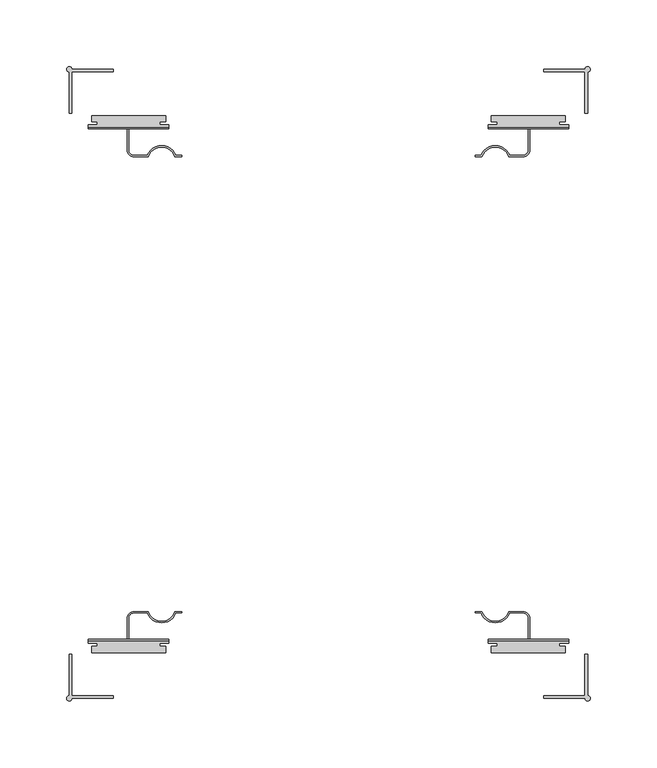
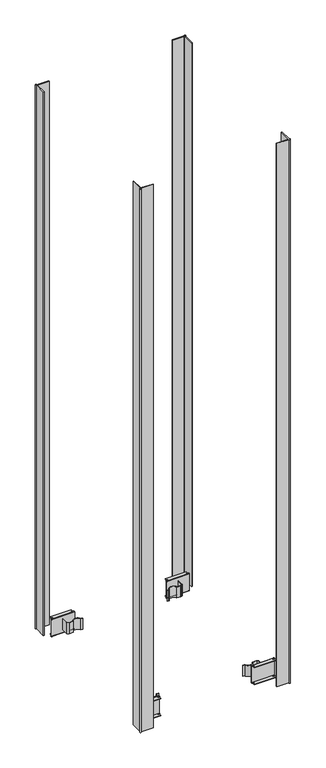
"""IFC4 building model written with IfcOpenShell, lengths in millimetres: column geometry, Облицовка колонн : КНАУФ-Суперлист один слой."""

from ifc_helpers import new_model, si_unit, point, frame, frame_2d, origin, origin_with_axes, place, context, project, spatial, polyline, circle_curve, trimmed, segment, composite_curve, outline, extrude, source, transform, mapped, element, save
from ifc_brep_helpers import plane_surface, cylinder_surface, advanced_brep


def column_70669c84(model_context):
    return source(origin(), model_context, "Body", "SolidModel", [
        extrude(outline(composite_curve([segment(polyline([(161.5, -234.0), (192.5, -234.0), (192.5, -203.0), (194.4874508, -203.0), (194.4874508, -234.0436745)]), True, "CONTINUOUS"), segment(trimmed(circle_curve(frame_2d((194.4874508, -236.0311253)), 1.9874508), [point((194.4874508, -234.0436745))], [point((192.5, -236.0311253))], False, "CARTESIAN"), True, "CONTINUOUS"), segment(polyline([(192.5, -236.0311253), (161.5, -236.0311253), (161.5, -234.0)]), True, "CONTINUOUS")], self_intersect=False)), origin_with_axes(), (0.0, 0.0, 1.0), 1500.0),
        extrude(outline(composite_curve([segment(polyline([(161.5, 234.0), (161.5, 236.0311253), (192.5, 236.0311253)]), True, "CONTINUOUS"), segment(trimmed(circle_curve(frame_2d((194.4874508, 236.0311253)), 1.9874508), [point((192.5, 236.0311253))], [point((194.4874508, 234.0436745))], False, "CARTESIAN"), True, "CONTINUOUS"), segment(polyline([(194.4874508, 234.0436745), (194.4874508, 203.0), (192.5, 203.0), (192.5, 234.0), (161.5, 234.0)]), True, "CONTINUOUS")], self_intersect=False)), origin_with_axes(), (0.0, 0.0, 1.0), 1500.0),
        extrude(outline(composite_curve([segment(polyline([(-161.5, -234.0), (-161.5, -236.0311253), (-192.5, -236.0311253)]), True, "CONTINUOUS"), segment(trimmed(circle_curve(frame_2d((-194.4874508, -236.0311253)), 1.9874508), [point((-192.5, -236.0311253))], [point((-194.4874508, -234.0436745))], False, "CARTESIAN"), True, "CONTINUOUS"), segment(polyline([(-194.4874508, -234.0436745), (-194.4874508, -203.0), (-192.5, -203.0), (-192.5, -234.0), (-161.5, -234.0)]), True, "CONTINUOUS")], self_intersect=False)), origin_with_axes(), (0.0, 0.0, 1.0), 1500.0),
        extrude(outline(composite_curve([segment(polyline([(-161.5, 234.0), (-192.5, 234.0), (-192.5, 203.0), (-194.4874508, 203.0), (-194.4874508, 234.0436745)]), True, "CONTINUOUS"), segment(trimmed(circle_curve(frame_2d((-194.4874508, 236.0311253)), 1.9874508), [point((-194.4874508, 234.0436745))], [point((-192.5, 236.0311253))], False, "CARTESIAN"), True, "CONTINUOUS"), segment(polyline([(-192.5, 236.0311253), (-161.5, 236.0311253), (-161.5, 234.0)]), True, "CONTINUOUS")], self_intersect=False)), origin_with_axes(), (0.0, 0.0, 1.0), 1500.0),
        advanced_brep(
        [(-180.2, 191.5, 46.0), (-180.2, 192.5, 47.0), (-180.2, 194.5, 47.0), (-180.2, 194.5, 46.0), (-180.2, 192.5, 46.0), (-180.2, 192.5, 0.0), (-180.2, 194.5, 0.0), (-180.2, 194.5, -1.0), (-180.2, 192.5, -1.0), (-180.2, 191.5, 0.0), (-119.8, 191.5, 46.0), (-119.8, 191.5, 0.0), (-119.8, 192.5, -1.0), (-119.8, 194.5, -1.0), (-119.8, 194.5, 0.0), (-119.8, 192.5, 0.0), (-119.8, 192.5, 46.0), (-119.8, 194.5, 46.0), (-119.8, 194.5, 47.0), (-119.8, 192.5, 47.0), (-126.6838154, 194.5, 47.0), (-126.6838154, 196.8, 47.0), (-122.2, 196.8, 47.0), (-122.2, 201.5, 47.0), (-177.8, 201.5, 47.0), (-177.8, 196.8, 47.0), (-173.3161846, 196.8, 47.0), (-173.3161846, 194.5, 47.0), (-177.8, 201.5, 46.0), (-122.2, 201.5, 46.0), (-173.3161846, 194.5, 46.0), (-173.3161846, 196.8, 46.0), (-177.8, 196.8, 46.0), (-122.2, 196.8, 46.0), (-126.6838154, 196.8, 46.0), (-126.6838154, 194.5, 46.0), (-126.6838154, 194.5, 0.0), (-126.6838154, 196.8, 0.0), (-122.2, 196.8, 0.0), (-122.2, 201.5, 0.0), (-177.8, 201.5, 0.0), (-177.8, 196.8, 0.0), (-173.3161846, 196.8, 0.0), (-173.3161846, 194.5, 0.0), (-177.8, 201.5, -1.0), (-122.2, 201.5, -1.0), (-173.3161846, 194.5, -1.0), (-173.3161846, 196.8, -1.0), (-177.8, 196.8, -1.0), (-122.2, 196.8, -1.0), (-126.6838154, 196.8, -1.0), (-126.6838154, 194.5, -1.0)],
        [
            (0, 1, circle_curve(frame((-180.2, 192.5, 46.0), z_axis=(-1.0, 0.0, 0.0), x_axis=(0.0, -1.0, 0.0)), 1.0)),
            (1, 2),
            (2, 3),
            (3, 4),
            (4, 5),
            (5, 6),
            (6, 7),
            (7, 8),
            (8, 9, circle_curve(frame((-180.2, 192.5, 0.0), z_axis=(-1.0, 0.0, 0.0), x_axis=(0.0, -1.0, 0.0)), 1.0)),
            (9, 0),
            (10, 11),
            (11, 12, circle_curve(frame((-119.8, 192.5, 0.0), z_axis=(1.0, 0.0, 0.0), x_axis=(0.0, -1.0, 0.0)), 1.0)),
            (12, 13),
            (13, 14),
            (14, 15),
            (15, 16),
            (16, 17),
            (17, 18),
            (18, 19),
            (19, 10, circle_curve(frame((-119.8, 192.5, 46.0), z_axis=(1.0, 0.0, 0.0), x_axis=(0.0, -1.0, 0.0)), 1.0)),
            (0, 10),
            (19, 1),
            (18, 20),
            (20, 21),
            (21, 22),
            (22, 23),
            (23, 24),
            (24, 25),
            (25, 26),
            (26, 27),
            (27, 2),
            (28, 24),
            (23, 29),
            (29, 28),
            (16, 4),
            (3, 30),
            (30, 31),
            (31, 32),
            (32, 28),
            (29, 33),
            (33, 34),
            (34, 35),
            (35, 17),
            (15, 5),
            (14, 36),
            (36, 37),
            (37, 38),
            (38, 39),
            (39, 40),
            (40, 41),
            (41, 42),
            (42, 43),
            (43, 6),
            (44, 40),
            (39, 45),
            (45, 44),
            (12, 8),
            (7, 46),
            (46, 47),
            (47, 48),
            (48, 44),
            (45, 49),
            (49, 50),
            (50, 51),
            (51, 13),
            (11, 9),
            (30, 27),
            (26, 31),
            (46, 43),
            (42, 47),
            (25, 32),
            (41, 48),
            (34, 21),
            (20, 35),
            (50, 37),
            (36, 51),
            (33, 22),
            (49, 38),
        ],
        [
            plane_surface(frame((-180.2, 191.5, 46.0), z_axis=(-1.0, 0.0, 0.0), x_axis=(0.0, 0.0, 1.0))),
            plane_surface(frame((-119.8, 191.5, 46.0), z_axis=(1.0, 0.0, 0.0), x_axis=(0.0, 0.0, -1.0))),
            cylinder_surface(frame((-119.8, 192.5, 46.0), z_axis=(-1.0, 0.0, 0.0), x_axis=(0.0, -1.0, 0.0)), 1.0),
            plane_surface(frame((-180.2, 192.5, 47.0), z_axis=(0.0, 0.0, 1.0), x_axis=(1.0, 0.0, 0.0))),
            plane_surface(frame((-180.2, 201.5, 47.0), z_axis=(0.0, 1.0, 0.0), x_axis=(1.0, 0.0, 0.0))),
            plane_surface(frame((-180.2, 201.5, 46.0), z_axis=(0.0, 0.0, -1.0), x_axis=(1.0, 0.0, 0.0))),
            plane_surface(frame((-180.2, 192.5, 46.0), z_axis=(0.0, 1.0, 0.0), x_axis=(1.0, 0.0, 0.0))),
            plane_surface(frame((-180.2, 192.5, 0.0), z_axis=(0.0, 0.0, 1.0), x_axis=(1.0, 0.0, 0.0))),
            plane_surface(frame((-180.2, 201.5, 0.0), z_axis=(0.0, 1.0, 0.0), x_axis=(1.0, 0.0, 0.0))),
            plane_surface(frame((-180.2, 201.5, -1.0), z_axis=(0.0, 0.0, -1.0), x_axis=(1.0, 0.0, 0.0))),
            cylinder_surface(frame((-119.8, 192.5, 0.0), z_axis=(-1.0, 0.0, 0.0), x_axis=(0.0, -1.0, 0.0)), 1.0),
            plane_surface(frame((-180.2, 191.5, 0.0), z_axis=(0.0, -1.0, 0.0), x_axis=(1.0, 0.0, 0.0))),
            plane_surface(frame((-173.3161846, 194.5, 47.0), z_axis=(-1.0, 0.0, 0.0), x_axis=(0.0, 0.0, -1.0))),
            plane_surface(frame((-173.3161846, 196.8, 47.0), z_axis=(0.0, -1.0, 0.0), x_axis=(0.0, 0.0, -1.0))),
            plane_surface(frame((-177.8, 196.8, 47.0), z_axis=(-1.0, 0.0, 0.0), x_axis=(0.0, 0.0, -1.0))),
            plane_surface(frame((-180.2, 194.5, 47.0), z_axis=(0.0, 1.0, 0.0), x_axis=(0.0, 0.0, -1.0))),
            plane_surface(frame((-126.6838154, 196.8, 47.0), z_axis=(1.0, 0.0, 0.0), x_axis=(0.0, 0.0, -1.0))),
            plane_surface(frame((-122.2, 196.8, 47.0), z_axis=(0.0, -1.0, 0.0), x_axis=(0.0, 0.0, -1.0))),
            plane_surface(frame((-122.2, 201.5, 47.0), z_axis=(1.0, 0.0, 0.0), x_axis=(0.0, 0.0, -1.0))),
            plane_surface(frame((-126.6838154, 194.5, 47.0), z_axis=(0.0, 1.0, 0.0), x_axis=(0.0, 0.0, -1.0))),
        ],
        [
            (0, [[1, 2, 3, 4, 5, 6, 7, 8, 9, 10]]),
            (1, [[11, 12, 13, 14, 15, 16, 17, 18, 19, 20]]),
            (2, [[-1, 21, -20, 22]]),
            (3, [[-22, -19, 23, 24, 25, 26, 27, 28, 29, 30, 31, -2]]),
            (4, [[32, -27, 33, 34]]),
            (5, [[35, -4, 36, 37, 38, 39, -34, 40, 41, 42, 43, -17]]),
            (6, [[-5, -35, -16, 44]]),
            (7, [[-44, -15, 45, 46, 47, 48, 49, 50, 51, 52, 53, -6]]),
            (8, [[54, -49, 55, 56]]),
            (9, [[57, -8, 58, 59, 60, 61, -56, 62, 63, 64, 65, -13]]),
            (10, [[-9, -57, -12, 66]]),
            (11, [[-10, -66, -11, -21]]),
            (12, [[67, -30, 68, -37]]),
            (12, [[69, -52, 70, -59]]),
            (13, [[-68, -29, 71, -38]]),
            (13, [[-70, -51, 72, -60]]),
            (14, [[-71, -28, -32, -39]]),
            (14, [[-72, -50, -54, -61]]),
            (15, [[-67, -36, -3, -31]]),
            (15, [[-69, -58, -7, -53]]),
            (16, [[73, -24, 74, -42]]),
            (16, [[75, -46, 76, -64]]),
            (17, [[-73, -41, 77, -25]]),
            (17, [[-75, -63, 78, -47]]),
            (18, [[-77, -40, -33, -26]]),
            (18, [[-78, -62, -55, -48]]),
            (19, [[-74, -23, -18, -43]]),
            (19, [[-76, -45, -14, -65]]),
        ],
    ),
        extrude(outline(composite_curve([segment(trimmed(circle_curve(frame_2d((-125.2, 167.4974781)), 10.5025219), [point((-115.2, 170.7073015))], [point((-135.2, 170.7073015))], True, "CARTESIAN"), True, "CONTINUOUS"), segment(polyline([(-135.2, 170.7073015), (-146.0, 170.7073015)]), True, "CONTINUOUS"), segment(trimmed(circle_curve(frame_2d((-146.0, 175.7073015)), 5.0), [point((-146.0, 170.7073015))], [point((-151.0, 175.7073015))], False, "CARTESIAN"), True, "CONTINUOUS"), segment(polyline([(-151.0, 175.7073015), (-151.0, 191.5), (-150.0, 191.5), (-150.0, 175.7073015)]), True, "CONTINUOUS"), segment(trimmed(circle_curve(frame_2d((-146.0, 175.7073015)), 4.0), [point((-150.0, 175.7073015))], [point((-146.0, 171.7073015))], True, "CARTESIAN"), True, "CONTINUOUS"), segment(polyline([(-146.0, 171.7073015), (-135.9044569, 171.7073015)]), True, "CONTINUOUS"), segment(trimmed(circle_curve(frame_2d((-125.2, 167.4974781)), 11.5025219), [point((-135.9044569, 171.7073015))], [point((-114.4955431, 171.7073015))], False, "CARTESIAN"), True, "CONTINUOUS"), segment(polyline([(-114.4955431, 171.7073015), (-110.2, 171.7073015), (-110.2, 170.7073015), (-115.2, 170.7073015)]), True, "CONTINUOUS")], self_intersect=False)), frame((0.0, 0.0, 8.0), z_axis=(0.0, 0.0, 1.0), x_axis=(1.0, 0.0, 0.0)), (0.0, 0.0, 1.0), 30.0),
        advanced_brep(
        [(180.2, 191.5, 46.0), (180.2, 191.5, 0.0), (180.2, 192.5, -1.0), (180.2, 194.5, -1.0), (180.2, 194.5, 0.0), (180.2, 192.5, 0.0), (180.2, 192.5, 46.0), (180.2, 194.5, 46.0), (180.2, 194.5, 47.0), (180.2, 192.5, 47.0), (119.8, 191.5, 46.0), (119.8, 192.5, 47.0), (119.8, 194.5, 47.0), (119.8, 194.5, 46.0), (119.8, 192.5, 46.0), (119.8, 192.5, 0.0), (119.8, 194.5, 0.0), (119.8, 194.5, -1.0), (119.8, 192.5, -1.0), (119.8, 191.5, 0.0), (173.3161846, 194.5, 47.0), (173.3161846, 196.8, 47.0), (177.8, 196.8, 47.0), (177.8, 201.5, 47.0), (122.2, 201.5, 47.0), (122.2, 196.8, 47.0), (126.6838154, 196.8, 47.0), (126.6838154, 194.5, 47.0), (177.8, 201.5, 46.0), (122.2, 201.5, 46.0), (126.6838154, 194.5, 46.0), (126.6838154, 196.8, 46.0), (122.2, 196.8, 46.0), (177.8, 196.8, 46.0), (173.3161846, 196.8, 46.0), (173.3161846, 194.5, 46.0), (173.3161846, 194.5, 0.0), (173.3161846, 196.8, 0.0), (177.8, 196.8, 0.0), (177.8, 201.5, 0.0), (122.2, 201.5, 0.0), (122.2, 196.8, 0.0), (126.6838154, 196.8, 0.0), (126.6838154, 194.5, 0.0), (177.8, 201.5, -1.0), (122.2, 201.5, -1.0), (126.6838154, 194.5, -1.0), (126.6838154, 196.8, -1.0), (122.2, 196.8, -1.0), (177.8, 196.8, -1.0), (173.3161846, 196.8, -1.0), (173.3161846, 194.5, -1.0)],
        [
            (0, 1),
            (1, 2, circle_curve(frame((180.2, 192.5, 0.0), z_axis=(1.0, 0.0, 0.0), x_axis=(0.0, -1.0, 0.0)), 1.0)),
            (2, 3),
            (3, 4),
            (4, 5),
            (5, 6),
            (6, 7),
            (7, 8),
            (8, 9),
            (9, 0, circle_curve(frame((180.2, 192.5, 46.0), z_axis=(1.0, 0.0, 0.0), x_axis=(0.0, -1.0, 0.0)), 1.0)),
            (10, 11, circle_curve(frame((119.8, 192.5, 46.0), z_axis=(-1.0, 0.0, 0.0), x_axis=(0.0, -1.0, 0.0)), 1.0)),
            (11, 12),
            (12, 13),
            (13, 14),
            (14, 15),
            (15, 16),
            (16, 17),
            (17, 18),
            (18, 19, circle_curve(frame((119.8, 192.5, 0.0), z_axis=(-1.0, 0.0, 0.0), x_axis=(0.0, -1.0, 0.0)), 1.0)),
            (19, 10),
            (9, 11),
            (10, 0),
            (8, 20),
            (20, 21),
            (21, 22),
            (22, 23),
            (23, 24),
            (24, 25),
            (25, 26),
            (26, 27),
            (27, 12),
            (28, 29),
            (29, 24),
            (23, 28),
            (13, 30),
            (30, 31),
            (31, 32),
            (32, 29),
            (28, 33),
            (33, 34),
            (34, 35),
            (35, 7),
            (6, 14),
            (5, 15),
            (4, 36),
            (36, 37),
            (37, 38),
            (38, 39),
            (39, 40),
            (40, 41),
            (41, 42),
            (42, 43),
            (43, 16),
            (44, 45),
            (45, 40),
            (39, 44),
            (17, 46),
            (46, 47),
            (47, 48),
            (48, 45),
            (44, 49),
            (49, 50),
            (50, 51),
            (51, 3),
            (2, 18),
            (1, 19),
            (34, 21),
            (20, 35),
            (50, 37),
            (36, 51),
            (33, 22),
            (49, 38),
            (30, 27),
            (26, 31),
            (46, 43),
            (42, 47),
            (25, 32),
            (41, 48),
        ],
        [
            plane_surface(frame((180.2, 191.5, 46.0), z_axis=(1.0, 0.0, 0.0), x_axis=(0.0, 0.0, 1.0))),
            plane_surface(frame((119.8, 191.5, 46.0), z_axis=(-1.0, 0.0, 0.0), x_axis=(0.0, 0.0, -1.0))),
            cylinder_surface(frame((119.8, 192.5, 46.0), z_axis=(1.0, 0.0, 0.0), x_axis=(0.0, -1.0, 0.0)), 1.0),
            plane_surface(frame((180.2, 192.5, 47.0), z_axis=(0.0, 0.0, 1.0), x_axis=(-1.0, 0.0, 0.0))),
            plane_surface(frame((180.2, 201.5, 47.0), z_axis=(0.0, 1.0, 0.0), x_axis=(-1.0, 0.0, 0.0))),
            plane_surface(frame((180.2, 201.5, 46.0), z_axis=(0.0, 0.0, -1.0), x_axis=(-1.0, 0.0, 0.0))),
            plane_surface(frame((180.2, 192.5, 46.0), z_axis=(0.0, 1.0, 0.0), x_axis=(-1.0, 0.0, 0.0))),
            plane_surface(frame((180.2, 192.5, 0.0), z_axis=(0.0, 0.0, 1.0), x_axis=(-1.0, 0.0, 0.0))),
            plane_surface(frame((180.2, 201.5, 0.0), z_axis=(0.0, 1.0, 0.0), x_axis=(-1.0, 0.0, 0.0))),
            plane_surface(frame((180.2, 201.5, -1.0), z_axis=(0.0, 0.0, -1.0), x_axis=(-1.0, 0.0, 0.0))),
            cylinder_surface(frame((119.8, 192.5, 0.0), z_axis=(1.0, 0.0, 0.0), x_axis=(0.0, -1.0, 0.0)), 1.0),
            plane_surface(frame((180.2, 191.5, 0.0), z_axis=(0.0, -1.0, 0.0), x_axis=(-1.0, 0.0, 0.0))),
            plane_surface(frame((173.3161846, 194.5, 47.0), z_axis=(1.0, 0.0, 0.0), x_axis=(0.0, 0.0, -1.0))),
            plane_surface(frame((173.3161846, 196.8, 47.0), z_axis=(0.0, -1.0, 0.0), x_axis=(0.0, 0.0, -1.0))),
            plane_surface(frame((177.8, 196.8, 47.0), z_axis=(1.0, 0.0, 0.0), x_axis=(0.0, 0.0, -1.0))),
            plane_surface(frame((180.2, 194.5, 47.0), z_axis=(0.0, 1.0, 0.0), x_axis=(0.0, 0.0, -1.0))),
            plane_surface(frame((126.6838154, 196.8, 47.0), z_axis=(-1.0, 0.0, 0.0), x_axis=(0.0, 0.0, -1.0))),
            plane_surface(frame((122.2, 196.8, 47.0), z_axis=(0.0, -1.0, 0.0), x_axis=(0.0, 0.0, -1.0))),
            plane_surface(frame((122.2, 201.5, 47.0), z_axis=(-1.0, 0.0, 0.0), x_axis=(0.0, 0.0, -1.0))),
            plane_surface(frame((126.6838154, 194.5, 47.0), z_axis=(0.0, 1.0, 0.0), x_axis=(0.0, 0.0, -1.0))),
        ],
        [
            (0, [[1, 2, 3, 4, 5, 6, 7, 8, 9, 10]]),
            (1, [[11, 12, 13, 14, 15, 16, 17, 18, 19, 20]]),
            (2, [[21, -11, 22, -10]]),
            (3, [[-9, 23, 24, 25, 26, 27, 28, 29, 30, 31, -12, -21]]),
            (4, [[32, 33, -27, 34]]),
            (5, [[-14, 35, 36, 37, 38, -32, 39, 40, 41, 42, -7, 43]]),
            (6, [[44, -15, -43, -6]]),
            (7, [[-5, 45, 46, 47, 48, 49, 50, 51, 52, 53, -16, -44]]),
            (8, [[54, 55, -49, 56]]),
            (9, [[-18, 57, 58, 59, 60, -54, 61, 62, 63, 64, -3, 65]]),
            (10, [[66, -19, -65, -2]]),
            (11, [[-22, -20, -66, -1]]),
            (12, [[-41, 67, -24, 68]]),
            (12, [[-63, 69, -46, 70]]),
            (13, [[-40, 71, -25, -67]]),
            (13, [[-62, 72, -47, -69]]),
            (14, [[-39, -34, -26, -71]]),
            (14, [[-61, -56, -48, -72]]),
            (15, [[-23, -8, -42, -68]]),
            (15, [[-45, -4, -64, -70]]),
            (16, [[-36, 73, -30, 74]]),
            (16, [[-58, 75, -52, 76]]),
            (17, [[-29, 77, -37, -74]]),
            (17, [[-51, 78, -59, -76]]),
            (18, [[-28, -33, -38, -77]]),
            (18, [[-50, -55, -60, -78]]),
            (19, [[-35, -13, -31, -73]]),
            (19, [[-57, -17, -53, -75]]),
        ],
    ),
        extrude(outline(composite_curve([segment(polyline([(115.2, 170.7073015), (110.2, 170.7073015), (110.2, 171.7073015), (114.4955431, 171.7073015)]), True, "CONTINUOUS"), segment(trimmed(circle_curve(frame_2d((125.2, 167.4974781)), 11.5025219), [point((114.4955431, 171.7073015))], [point((135.9044569, 171.7073015))], False, "CARTESIAN"), True, "CONTINUOUS"), segment(polyline([(135.9044569, 171.7073015), (146.0, 171.7073015)]), True, "CONTINUOUS"), segment(trimmed(circle_curve(frame_2d((146.0, 175.7073015)), 4.0), [point((146.0, 171.7073015))], [point((150.0, 175.7073015))], True, "CARTESIAN"), True, "CONTINUOUS"), segment(polyline([(150.0, 175.7073015), (150.0, 191.5), (151.0, 191.5), (151.0, 175.7073015)]), True, "CONTINUOUS"), segment(trimmed(circle_curve(frame_2d((146.0, 175.7073015)), 5.0), [point((151.0, 175.7073015))], [point((146.0, 170.7073015))], False, "CARTESIAN"), True, "CONTINUOUS"), segment(polyline([(146.0, 170.7073015), (135.2, 170.7073015)]), True, "CONTINUOUS"), segment(trimmed(circle_curve(frame_2d((125.2, 167.4974781)), 10.5025219), [point((135.2, 170.7073015))], [point((115.2, 170.7073015))], True, "CARTESIAN"), True, "CONTINUOUS")], self_intersect=False)), frame((0.0, 0.0, 8.0), z_axis=(0.0, 0.0, 1.0), x_axis=(1.0, 0.0, 0.0)), (0.0, 0.0, 1.0), 30.0),
        advanced_brep(
        [(-180.2, -191.5, 46.0), (-180.2, -191.5, 0.0), (-180.2, -192.5, -1.0), (-180.2, -194.5, -1.0), (-180.2, -194.5, 0.0), (-180.2, -192.5, 0.0), (-180.2, -192.5, 46.0), (-180.2, -194.5, 46.0), (-180.2, -194.5, 47.0), (-180.2, -192.5, 47.0), (-119.8, -191.5, 46.0), (-119.8, -192.5, 47.0), (-119.8, -194.5, 47.0), (-119.8, -194.5, 46.0), (-119.8, -192.5, 46.0), (-119.8, -192.5, 0.0), (-119.8, -194.5, 0.0), (-119.8, -194.5, -1.0), (-119.8, -192.5, -1.0), (-119.8, -191.5, 0.0), (-173.3161846, -194.5, 47.0), (-173.3161846, -196.8, 47.0), (-177.8, -196.8, 47.0), (-177.8, -201.5, 47.0), (-122.2, -201.5, 47.0), (-122.2, -196.8, 47.0), (-126.6838154, -196.8, 47.0), (-126.6838154, -194.5, 47.0), (-177.8, -201.5, 46.0), (-122.2, -201.5, 46.0), (-126.6838154, -194.5, 46.0), (-126.6838154, -196.8, 46.0), (-122.2, -196.8, 46.0), (-177.8, -196.8, 46.0), (-173.3161846, -196.8, 46.0), (-173.3161846, -194.5, 46.0), (-173.3161846, -194.5, 0.0), (-173.3161846, -196.8, 0.0), (-177.8, -196.8, 0.0), (-177.8, -201.5, 0.0), (-122.2, -201.5, 0.0), (-122.2, -196.8, 0.0), (-126.6838154, -196.8, 0.0), (-126.6838154, -194.5, 0.0), (-177.8, -201.5, -1.0), (-122.2, -201.5, -1.0), (-126.6838154, -194.5, -1.0), (-126.6838154, -196.8, -1.0), (-122.2, -196.8, -1.0), (-177.8, -196.8, -1.0), (-173.3161846, -196.8, -1.0), (-173.3161846, -194.5, -1.0)],
        [
            (0, 1),
            (1, 2, circle_curve(frame((-180.2, -192.5, 0.0), z_axis=(-1.0, 0.0, 0.0), x_axis=(0.0, 1.0, 0.0)), 1.0)),
            (2, 3),
            (3, 4),
            (4, 5),
            (5, 6),
            (6, 7),
            (7, 8),
            (8, 9),
            (9, 0, circle_curve(frame((-180.2, -192.5, 46.0), z_axis=(-1.0, 0.0, 0.0), x_axis=(0.0, 1.0, 0.0)), 1.0)),
            (10, 11, circle_curve(frame((-119.8, -192.5, 46.0), z_axis=(1.0, 0.0, 0.0), x_axis=(0.0, 1.0, 0.0)), 1.0)),
            (11, 12),
            (12, 13),
            (13, 14),
            (14, 15),
            (15, 16),
            (16, 17),
            (17, 18),
            (18, 19, circle_curve(frame((-119.8, -192.5, 0.0), z_axis=(1.0, 0.0, 0.0), x_axis=(0.0, 1.0, 0.0)), 1.0)),
            (19, 10),
            (9, 11),
            (10, 0),
            (8, 20),
            (20, 21),
            (21, 22),
            (22, 23),
            (23, 24),
            (24, 25),
            (25, 26),
            (26, 27),
            (27, 12),
            (28, 29),
            (29, 24),
            (23, 28),
            (13, 30),
            (30, 31),
            (31, 32),
            (32, 29),
            (28, 33),
            (33, 34),
            (34, 35),
            (35, 7),
            (6, 14),
            (5, 15),
            (4, 36),
            (36, 37),
            (37, 38),
            (38, 39),
            (39, 40),
            (40, 41),
            (41, 42),
            (42, 43),
            (43, 16),
            (44, 45),
            (45, 40),
            (39, 44),
            (17, 46),
            (46, 47),
            (47, 48),
            (48, 45),
            (44, 49),
            (49, 50),
            (50, 51),
            (51, 3),
            (2, 18),
            (1, 19),
            (34, 21),
            (20, 35),
            (50, 37),
            (36, 51),
            (33, 22),
            (49, 38),
            (30, 27),
            (26, 31),
            (46, 43),
            (42, 47),
            (25, 32),
            (41, 48),
        ],
        [
            plane_surface(frame((-180.2, -191.5, 46.0), z_axis=(-1.0, 0.0, 0.0), x_axis=(0.0, 0.0, 1.0))),
            plane_surface(frame((-119.8, -191.5, 46.0), z_axis=(1.0, 0.0, 0.0), x_axis=(0.0, 0.0, -1.0))),
            cylinder_surface(frame((-119.8, -192.5, 46.0), z_axis=(-1.0, 0.0, 0.0), x_axis=(0.0, 1.0, 0.0)), 1.0),
            plane_surface(frame((-180.2, -192.5, 47.0), z_axis=(0.0, 0.0, 1.0), x_axis=(1.0, 0.0, 0.0))),
            plane_surface(frame((-180.2, -201.5, 47.0), z_axis=(0.0, -1.0, 0.0), x_axis=(1.0, 0.0, 0.0))),
            plane_surface(frame((-180.2, -201.5, 46.0), z_axis=(0.0, 0.0, -1.0), x_axis=(1.0, 0.0, 0.0))),
            plane_surface(frame((-180.2, -192.5, 46.0), z_axis=(0.0, -1.0, 0.0), x_axis=(1.0, 0.0, 0.0))),
            plane_surface(frame((-180.2, -192.5, 0.0), z_axis=(0.0, 0.0, 1.0), x_axis=(1.0, 0.0, 0.0))),
            plane_surface(frame((-180.2, -201.5, 0.0), z_axis=(0.0, -1.0, 0.0), x_axis=(1.0, 0.0, 0.0))),
            plane_surface(frame((-180.2, -201.5, -1.0), z_axis=(0.0, 0.0, -1.0), x_axis=(1.0, 0.0, 0.0))),
            cylinder_surface(frame((-119.8, -192.5, 0.0), z_axis=(-1.0, 0.0, 0.0), x_axis=(0.0, 1.0, 0.0)), 1.0),
            plane_surface(frame((-180.2, -191.5, 0.0), z_axis=(0.0, 1.0, 0.0), x_axis=(1.0, 0.0, 0.0))),
            plane_surface(frame((-173.3161846, -194.5, 47.0), z_axis=(-1.0, 0.0, 0.0), x_axis=(0.0, 0.0, -1.0))),
            plane_surface(frame((-173.3161846, -196.8, 47.0), z_axis=(0.0, 1.0, 0.0), x_axis=(0.0, 0.0, -1.0))),
            plane_surface(frame((-177.8, -196.8, 47.0), z_axis=(-1.0, 0.0, 0.0), x_axis=(0.0, 0.0, -1.0))),
            plane_surface(frame((-180.2, -194.5, 47.0), z_axis=(0.0, -1.0, 0.0), x_axis=(0.0, 0.0, -1.0))),
            plane_surface(frame((-126.6838154, -196.8, 47.0), z_axis=(1.0, 0.0, 0.0), x_axis=(0.0, 0.0, -1.0))),
            plane_surface(frame((-122.2, -196.8, 47.0), z_axis=(0.0, 1.0, 0.0), x_axis=(0.0, 0.0, -1.0))),
            plane_surface(frame((-122.2, -201.5, 47.0), z_axis=(1.0, 0.0, 0.0), x_axis=(0.0, 0.0, -1.0))),
            plane_surface(frame((-126.6838154, -194.5, 47.0), z_axis=(0.0, -1.0, 0.0), x_axis=(0.0, 0.0, -1.0))),
        ],
        [
            (0, [[1, 2, 3, 4, 5, 6, 7, 8, 9, 10]]),
            (1, [[11, 12, 13, 14, 15, 16, 17, 18, 19, 20]]),
            (2, [[21, -11, 22, -10]]),
            (3, [[-9, 23, 24, 25, 26, 27, 28, 29, 30, 31, -12, -21]]),
            (4, [[32, 33, -27, 34]]),
            (5, [[-14, 35, 36, 37, 38, -32, 39, 40, 41, 42, -7, 43]]),
            (6, [[44, -15, -43, -6]]),
            (7, [[-5, 45, 46, 47, 48, 49, 50, 51, 52, 53, -16, -44]]),
            (8, [[54, 55, -49, 56]]),
            (9, [[-18, 57, 58, 59, 60, -54, 61, 62, 63, 64, -3, 65]]),
            (10, [[66, -19, -65, -2]]),
            (11, [[-22, -20, -66, -1]]),
            (12, [[-41, 67, -24, 68]]),
            (12, [[-63, 69, -46, 70]]),
            (13, [[-40, 71, -25, -67]]),
            (13, [[-62, 72, -47, -69]]),
            (14, [[-39, -34, -26, -71]]),
            (14, [[-61, -56, -48, -72]]),
            (15, [[-23, -8, -42, -68]]),
            (15, [[-45, -4, -64, -70]]),
            (16, [[-36, 73, -30, 74]]),
            (16, [[-58, 75, -52, 76]]),
            (17, [[-29, 77, -37, -74]]),
            (17, [[-51, 78, -59, -76]]),
            (18, [[-28, -33, -38, -77]]),
            (18, [[-50, -55, -60, -78]]),
            (19, [[-35, -13, -31, -73]]),
            (19, [[-57, -17, -53, -75]]),
        ],
    ),
        extrude(outline(composite_curve([segment(polyline([(-115.2, -170.7073015), (-110.2, -170.7073015), (-110.2, -171.7073015), (-114.4955431, -171.7073015)]), True, "CONTINUOUS"), segment(trimmed(circle_curve(frame_2d((-125.2, -167.4974781)), 11.5025219), [point((-114.4955431, -171.7073015))], [point((-135.9044569, -171.7073015))], False, "CARTESIAN"), True, "CONTINUOUS"), segment(polyline([(-135.9044569, -171.7073015), (-146.0, -171.7073015)]), True, "CONTINUOUS"), segment(trimmed(circle_curve(frame_2d((-146.0, -175.7073015)), 4.0), [point((-146.0, -171.7073015))], [point((-150.0, -175.7073015))], True, "CARTESIAN"), True, "CONTINUOUS"), segment(polyline([(-150.0, -175.7073015), (-150.0, -191.5), (-151.0, -191.5), (-151.0, -175.7073015)]), True, "CONTINUOUS"), segment(trimmed(circle_curve(frame_2d((-146.0, -175.7073015)), 5.0), [point((-151.0, -175.7073015))], [point((-146.0, -170.7073015))], False, "CARTESIAN"), True, "CONTINUOUS"), segment(polyline([(-146.0, -170.7073015), (-135.2, -170.7073015)]), True, "CONTINUOUS"), segment(trimmed(circle_curve(frame_2d((-125.2, -167.4974781)), 10.5025219), [point((-135.2, -170.7073015))], [point((-115.2, -170.7073015))], True, "CARTESIAN"), True, "CONTINUOUS")], self_intersect=False)), frame((0.0, 0.0, 8.0), z_axis=(0.0, 0.0, 1.0), x_axis=(1.0, 0.0, 0.0)), (0.0, 0.0, 1.0), 30.0),
        advanced_brep(
        [(180.2, -191.5, 46.0), (180.2, -192.5, 47.0), (180.2, -194.5, 47.0), (180.2, -194.5, 46.0), (180.2, -192.5, 46.0), (180.2, -192.5, 0.0), (180.2, -194.5, 0.0), (180.2, -194.5, -1.0), (180.2, -192.5, -1.0), (180.2, -191.5, 0.0), (119.8, -191.5, 46.0), (119.8, -191.5, 0.0), (119.8, -192.5, -1.0), (119.8, -194.5, -1.0), (119.8, -194.5, 0.0), (119.8, -192.5, 0.0), (119.8, -192.5, 46.0), (119.8, -194.5, 46.0), (119.8, -194.5, 47.0), (119.8, -192.5, 47.0), (126.6838154, -194.5, 47.0), (126.6838154, -196.8, 47.0), (122.2, -196.8, 47.0), (122.2, -201.5, 47.0), (177.8, -201.5, 47.0), (177.8, -196.8, 47.0), (173.3161846, -196.8, 47.0), (173.3161846, -194.5, 47.0), (177.8, -201.5, 46.0), (122.2, -201.5, 46.0), (173.3161846, -194.5, 46.0), (173.3161846, -196.8, 46.0), (177.8, -196.8, 46.0), (122.2, -196.8, 46.0), (126.6838154, -196.8, 46.0), (126.6838154, -194.5, 46.0), (126.6838154, -194.5, 0.0), (126.6838154, -196.8, 0.0), (122.2, -196.8, 0.0), (122.2, -201.5, 0.0), (177.8, -201.5, 0.0), (177.8, -196.8, 0.0), (173.3161846, -196.8, 0.0), (173.3161846, -194.5, 0.0), (177.8, -201.5, -1.0), (122.2, -201.5, -1.0), (173.3161846, -194.5, -1.0), (173.3161846, -196.8, -1.0), (177.8, -196.8, -1.0), (122.2, -196.8, -1.0), (126.6838154, -196.8, -1.0), (126.6838154, -194.5, -1.0)],
        [
            (0, 1, circle_curve(frame((180.2, -192.5, 46.0), z_axis=(1.0, 0.0, 0.0), x_axis=(0.0, 1.0, 0.0)), 1.0)),
            (1, 2),
            (2, 3),
            (3, 4),
            (4, 5),
            (5, 6),
            (6, 7),
            (7, 8),
            (8, 9, circle_curve(frame((180.2, -192.5, 0.0), z_axis=(1.0, 0.0, 0.0), x_axis=(0.0, 1.0, 0.0)), 1.0)),
            (9, 0),
            (10, 11),
            (11, 12, circle_curve(frame((119.8, -192.5, 0.0), z_axis=(-1.0, 0.0, 0.0), x_axis=(0.0, 1.0, 0.0)), 1.0)),
            (12, 13),
            (13, 14),
            (14, 15),
            (15, 16),
            (16, 17),
            (17, 18),
            (18, 19),
            (19, 10, circle_curve(frame((119.8, -192.5, 46.0), z_axis=(-1.0, 0.0, 0.0), x_axis=(0.0, 1.0, 0.0)), 1.0)),
            (0, 10),
            (19, 1),
            (18, 20),
            (20, 21),
            (21, 22),
            (22, 23),
            (23, 24),
            (24, 25),
            (25, 26),
            (26, 27),
            (27, 2),
            (28, 24),
            (23, 29),
            (29, 28),
            (16, 4),
            (3, 30),
            (30, 31),
            (31, 32),
            (32, 28),
            (29, 33),
            (33, 34),
            (34, 35),
            (35, 17),
            (15, 5),
            (14, 36),
            (36, 37),
            (37, 38),
            (38, 39),
            (39, 40),
            (40, 41),
            (41, 42),
            (42, 43),
            (43, 6),
            (44, 40),
            (39, 45),
            (45, 44),
            (12, 8),
            (7, 46),
            (46, 47),
            (47, 48),
            (48, 44),
            (45, 49),
            (49, 50),
            (50, 51),
            (51, 13),
            (11, 9),
            (30, 27),
            (26, 31),
            (46, 43),
            (42, 47),
            (25, 32),
            (41, 48),
            (34, 21),
            (20, 35),
            (50, 37),
            (36, 51),
            (33, 22),
            (49, 38),
        ],
        [
            plane_surface(frame((180.2, -191.5, 46.0), z_axis=(1.0, 0.0, 0.0), x_axis=(0.0, 0.0, 1.0))),
            plane_surface(frame((119.8, -191.5, 46.0), z_axis=(-1.0, 0.0, 0.0), x_axis=(0.0, 0.0, -1.0))),
            cylinder_surface(frame((119.8, -192.5, 46.0), z_axis=(1.0, 0.0, 0.0), x_axis=(0.0, 1.0, 0.0)), 1.0),
            plane_surface(frame((180.2, -192.5, 47.0), z_axis=(0.0, 0.0, 1.0), x_axis=(-1.0, 0.0, 0.0))),
            plane_surface(frame((180.2, -201.5, 47.0), z_axis=(0.0, -1.0, 0.0), x_axis=(-1.0, 0.0, 0.0))),
            plane_surface(frame((180.2, -201.5, 46.0), z_axis=(0.0, 0.0, -1.0), x_axis=(-1.0, 0.0, 0.0))),
            plane_surface(frame((180.2, -192.5, 46.0), z_axis=(0.0, -1.0, 0.0), x_axis=(-1.0, 0.0, 0.0))),
            plane_surface(frame((180.2, -192.5, 0.0), z_axis=(0.0, 0.0, 1.0), x_axis=(-1.0, 0.0, 0.0))),
            plane_surface(frame((180.2, -201.5, 0.0), z_axis=(0.0, -1.0, 0.0), x_axis=(-1.0, 0.0, 0.0))),
            plane_surface(frame((180.2, -201.5, -1.0), z_axis=(0.0, 0.0, -1.0), x_axis=(-1.0, 0.0, 0.0))),
            cylinder_surface(frame((119.8, -192.5, 0.0), z_axis=(1.0, 0.0, 0.0), x_axis=(0.0, 1.0, 0.0)), 1.0),
            plane_surface(frame((180.2, -191.5, 0.0), z_axis=(0.0, 1.0, 0.0), x_axis=(-1.0, 0.0, 0.0))),
            plane_surface(frame((173.3161846, -194.5, 47.0), z_axis=(1.0, 0.0, 0.0), x_axis=(0.0, 0.0, -1.0))),
            plane_surface(frame((173.3161846, -196.8, 47.0), z_axis=(0.0, 1.0, 0.0), x_axis=(0.0, 0.0, -1.0))),
            plane_surface(frame((177.8, -196.8, 47.0), z_axis=(1.0, 0.0, 0.0), x_axis=(0.0, 0.0, -1.0))),
            plane_surface(frame((180.2, -194.5, 47.0), z_axis=(0.0, -1.0, 0.0), x_axis=(0.0, 0.0, -1.0))),
            plane_surface(frame((126.6838154, -196.8, 47.0), z_axis=(-1.0, 0.0, 0.0), x_axis=(0.0, 0.0, -1.0))),
            plane_surface(frame((122.2, -196.8, 47.0), z_axis=(0.0, 1.0, 0.0), x_axis=(0.0, 0.0, -1.0))),
            plane_surface(frame((122.2, -201.5, 47.0), z_axis=(-1.0, 0.0, 0.0), x_axis=(0.0, 0.0, -1.0))),
            plane_surface(frame((126.6838154, -194.5, 47.0), z_axis=(0.0, -1.0, 0.0), x_axis=(0.0, 0.0, -1.0))),
        ],
        [
            (0, [[1, 2, 3, 4, 5, 6, 7, 8, 9, 10]]),
            (1, [[11, 12, 13, 14, 15, 16, 17, 18, 19, 20]]),
            (2, [[-1, 21, -20, 22]]),
            (3, [[-22, -19, 23, 24, 25, 26, 27, 28, 29, 30, 31, -2]]),
            (4, [[32, -27, 33, 34]]),
            (5, [[35, -4, 36, 37, 38, 39, -34, 40, 41, 42, 43, -17]]),
            (6, [[-5, -35, -16, 44]]),
            (7, [[-44, -15, 45, 46, 47, 48, 49, 50, 51, 52, 53, -6]]),
            (8, [[54, -49, 55, 56]]),
            (9, [[57, -8, 58, 59, 60, 61, -56, 62, 63, 64, 65, -13]]),
            (10, [[-9, -57, -12, 66]]),
            (11, [[-10, -66, -11, -21]]),
            (12, [[67, -30, 68, -37]]),
            (12, [[69, -52, 70, -59]]),
            (13, [[-68, -29, 71, -38]]),
            (13, [[-70, -51, 72, -60]]),
            (14, [[-71, -28, -32, -39]]),
            (14, [[-72, -50, -54, -61]]),
            (15, [[-67, -36, -3, -31]]),
            (15, [[-69, -58, -7, -53]]),
            (16, [[73, -24, 74, -42]]),
            (16, [[75, -46, 76, -64]]),
            (17, [[-73, -41, 77, -25]]),
            (17, [[-75, -63, 78, -47]]),
            (18, [[-77, -40, -33, -26]]),
            (18, [[-78, -62, -55, -48]]),
            (19, [[-74, -23, -18, -43]]),
            (19, [[-76, -45, -14, -65]]),
        ],
    ),
        extrude(outline(composite_curve([segment(trimmed(circle_curve(frame_2d((125.2, -167.4974781)), 10.5025219), [point((115.2, -170.7073015))], [point((135.2, -170.7073015))], True, "CARTESIAN"), True, "CONTINUOUS"), segment(polyline([(135.2, -170.7073015), (146.0, -170.7073015)]), True, "CONTINUOUS"), segment(trimmed(circle_curve(frame_2d((146.0, -175.7073015)), 5.0), [point((146.0, -170.7073015))], [point((151.0, -175.7073015))], False, "CARTESIAN"), True, "CONTINUOUS"), segment(polyline([(151.0, -175.7073015), (151.0, -191.5), (150.0, -191.5), (150.0, -175.7073015)]), True, "CONTINUOUS"), segment(trimmed(circle_curve(frame_2d((146.0, -175.7073015)), 4.0), [point((150.0, -175.7073015))], [point((146.0, -171.7073015))], True, "CARTESIAN"), True, "CONTINUOUS"), segment(polyline([(146.0, -171.7073015), (135.9044569, -171.7073015)]), True, "CONTINUOUS"), segment(trimmed(circle_curve(frame_2d((125.2, -167.4974781)), 11.5025219), [point((135.9044569, -171.7073015))], [point((114.4955431, -171.7073015))], False, "CARTESIAN"), True, "CONTINUOUS"), segment(polyline([(114.4955431, -171.7073015), (110.2, -171.7073015), (110.2, -170.7073015), (115.2, -170.7073015)]), True, "CONTINUOUS")], self_intersect=False)), frame((0.0, 0.0, 8.0), z_axis=(0.0, 0.0, 1.0), x_axis=(1.0, 0.0, 0.0)), (0.0, 0.0, 1.0), 30.0),
    ])


if __name__ == "__main__":
    model = new_model("IFC4")
    model_context = context("Model", 3, world=origin())
    ifc_project = project(units=[si_unit("LENGTHUNIT", "METRE", prefix="MILLI")], contexts=[model_context])
    site = spatial("IfcSite", under=ifc_project)
    building = spatial("IfcBuilding", under=site)
    placement = place(None, origin())
    column_shape = column_70669c84(model_context)
    element("IfcColumn", 1, ObjectType="Облицовка колонн : КНАУФ-Суперлист один слой", at=placement, inside=building, context=model_context, shape_type="MappedRepresentation", body=[
        mapped(column_shape, transform((0.0, 0.0, 0.0), x_axis=(1.0, 0.0, 0.0), y_axis=(0.0, 1.0, 0.0), z_axis=(0.0, 0.0, 1.0))),
    ])
    save(model, "model.ifc")
